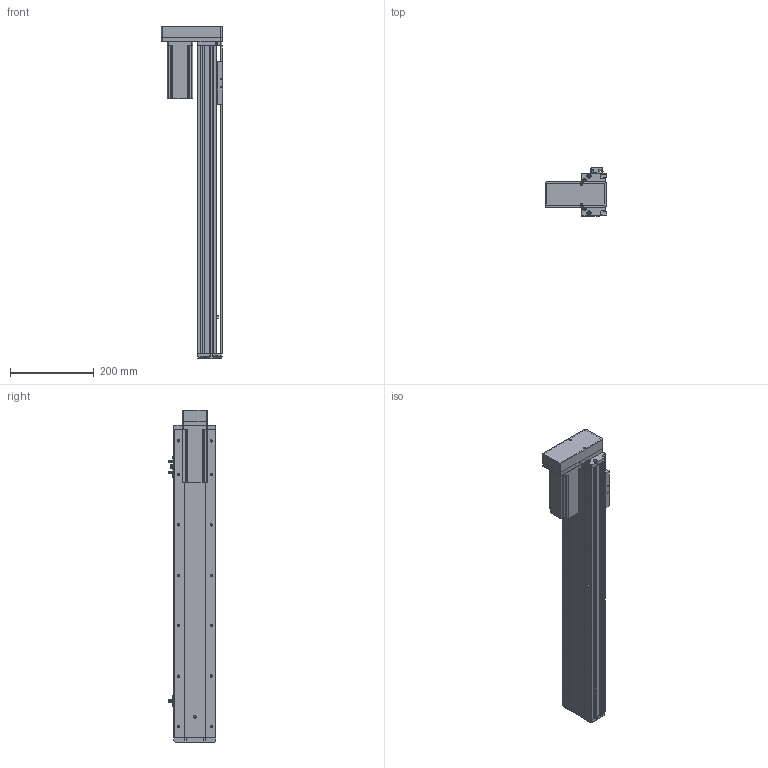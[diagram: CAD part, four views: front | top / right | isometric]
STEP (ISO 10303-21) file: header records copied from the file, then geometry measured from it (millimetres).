
FILE_DESCRIPTION (( 'STEP AP214' ), '1' );
FILE_NAME ('KSD100S-S550-MD-CM.STEP', '2019-08-30T03:28:33', ( '微软用户' ), ( '微软中国' ), 'SwSTEP 2.0', 'SolidWorks 2014', '' );
FILE_SCHEMA (( 'AUTOMOTIVE_DESIGN' ));
Length unit declared in the file: millimetre
Products named in the file (11): 悵誘欶奻狟殏; 100宽马达安装板连板上下折丝杆同步带; 台达ECMA－C20604AS伺服电机; 覜茼え100遵圉猾敕; U倰嫖萇EEㄜSX672; 100宽防尘板丝杆550行程; 100遵鎮湛假蚾啣; 100宽滚珠螺姆安装板半封闭; 100遵傷啣; 100宽底板半封闭丝杆550行程; KSD100S-S550-MD-CM
Assembly tree (12 placements, depth 2):
  KSD100S-S550-MD-CM
    100宽底板半封闭丝杆550行程
    100遵傷啣
    100宽滚珠螺姆安装板半封闭
    100遵鎮湛假蚾啣
    100宽防尘板丝杆550行程
    U倰嫖萇EEㄜSX672  x3
    覜茼え100遵圉猾敕
    台达ECMA－C20604AS伺服电机
    100宽马达安装板连板上下折丝杆同步带
    悵誘欶奻狟殏
Bounding box: 147 x 113.7 x 790.5 mm (x, y, z)
Volume: 2062140.7 mm3; surface area: 647963 mm2
Topology: 13 solids, 13 shells, 1241 faces, 3488 edges, 2211 vertices
Faces by surface type: cylinder 606, plane 504, cone 131
Entity records: 44113 total; most frequent: CARTESIAN_POINT 8169, DIRECTION 5863, ORIENTED_EDGE 5620, EDGE_CURVE 2810, AXIS2_PLACEMENT_3D 2133, VERTEX_POINT 1835, LINE 1597, VECTOR 1597
